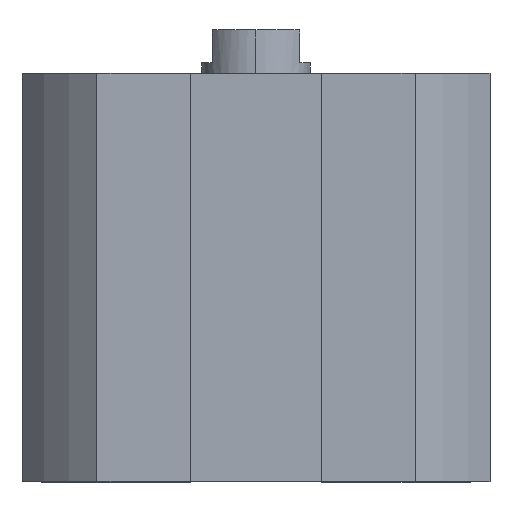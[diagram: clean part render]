
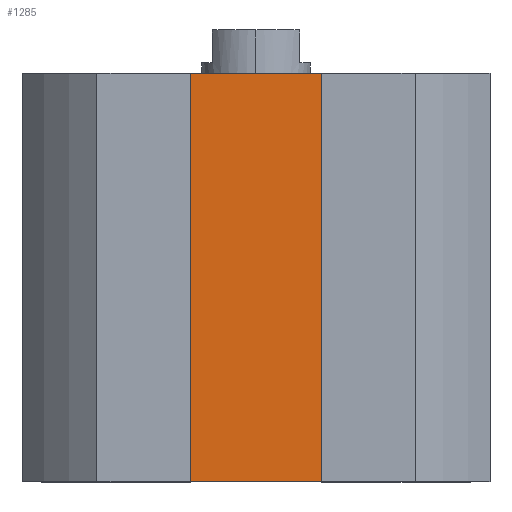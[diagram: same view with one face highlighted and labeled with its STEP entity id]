
A CAD part, top view. The second image highlights one B-rep face of the part: STEP entity #1285.
In plain terms, the highlighted planar face has unit normal (0, 0, 1).
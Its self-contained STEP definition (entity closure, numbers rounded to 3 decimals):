
#11 = EDGE_CURVE ( 'NONE', #292, #1012, #684, .T. ) ;
#23 = VERTEX_POINT ( 'NONE', #46 ) ;
#46 = CARTESIAN_POINT ( 'NONE',  ( -7.7, -37.5, 14. ) ) ;
#144 = ORIENTED_EDGE ( 'NONE', *, *, #1421, .T. ) ;
#229 = AXIS2_PLACEMENT_3D ( 'NONE', #931, #2443, #1977 ) ;
#292 = VERTEX_POINT ( 'NONE', #2267 ) ;
#443 = ORIENTED_EDGE ( 'NONE', *, *, #1965, .F. ) ;
#527 = PLANE ( 'NONE',  #229 ) ;
#570 = ORIENTED_EDGE ( 'NONE', *, *, #11, .F. ) ;
#588 = EDGE_CURVE ( 'NONE', #2411, #1012, #2263, .T. ) ;
#638 = VECTOR ( 'NONE', #708, 1000. ) ;
#684 = LINE ( 'NONE', #1691, #2238 ) ;
#694 = CARTESIAN_POINT ( 'NONE',  ( 7.7, -37.5, 14. ) ) ;
#708 = DIRECTION ( 'NONE',  ( 1., 0., 0. ) ) ;
#730 = DIRECTION ( 'NONE',  ( 0., 1., 0. ) ) ;
#931 = CARTESIAN_POINT ( 'NONE',  ( 0., -37.5, 14. ) ) ;
#1012 = VERTEX_POINT ( 'NONE', #1860 ) ;
#1016 = DIRECTION ( 'NONE',  ( 1., 0., 0. ) ) ;
#1035 = EDGE_LOOP ( 'NONE', ( #570, #443, #144, #2382 ) ) ;
#1079 = CARTESIAN_POINT ( 'NONE',  ( -7.7, -37.5, 14. ) ) ;
#1128 = CARTESIAN_POINT ( 'NONE',  ( 0., -37.5, 14. ) ) ;
#1149 = FACE_OUTER_BOUND ( 'NONE', #1035, .T. ) ;
#1285 = ADVANCED_FACE ( 'NONE', ( #1149 ), #527, .T. ) ;
#1421 = EDGE_CURVE ( 'NONE', #23, #2411, #1745, .T. ) ;
#1691 = CARTESIAN_POINT ( 'NONE',  ( 0., 0., 14. ) ) ;
#1745 = LINE ( 'NONE', #1128, #638 ) ;
#1860 = CARTESIAN_POINT ( 'NONE',  ( 7.7, 0., 14. ) ) ;
#1965 = EDGE_CURVE ( 'NONE', #23, #292, #2163, .T. ) ;
#1977 = DIRECTION ( 'NONE',  ( 1., 0., 0. ) ) ;
#2020 = VECTOR ( 'NONE', #2152, 1000. ) ;
#2152 = DIRECTION ( 'NONE',  ( 0., 1., 0. ) ) ;
#2163 = LINE ( 'NONE', #1079, #2020 ) ;
#2238 = VECTOR ( 'NONE', #1016, 1000. ) ;
#2263 = LINE ( 'NONE', #694, #2548 ) ;
#2267 = CARTESIAN_POINT ( 'NONE',  ( -7.7, 0., 14. ) ) ;
#2382 = ORIENTED_EDGE ( 'NONE', *, *, #588, .T. ) ;
#2411 = VERTEX_POINT ( 'NONE', #2737 ) ;
#2443 = DIRECTION ( 'NONE',  ( 0., 0., 1. ) ) ;
#2548 = VECTOR ( 'NONE', #730, 1000. ) ;
#2737 = CARTESIAN_POINT ( 'NONE',  ( 7.7, -37.5, 14. ) ) ;
